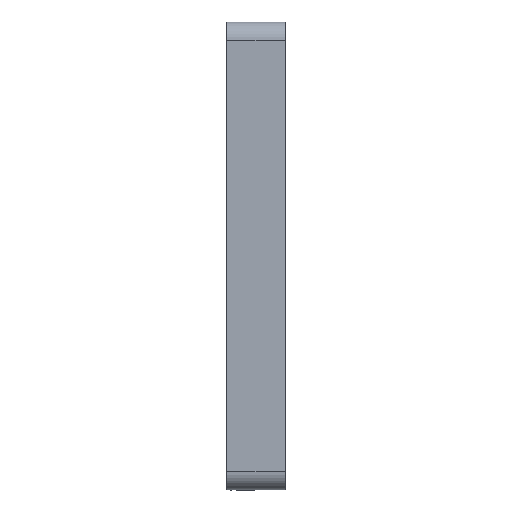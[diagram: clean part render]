
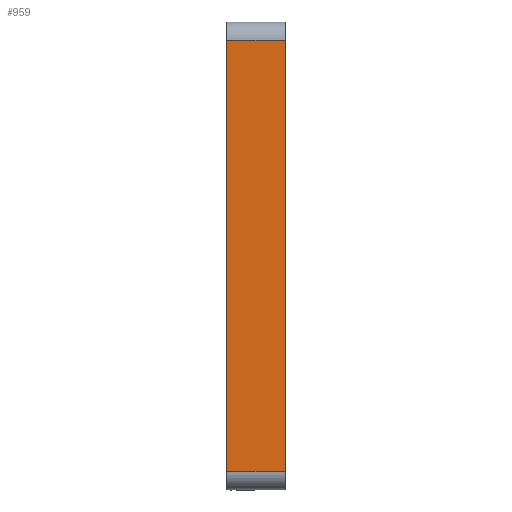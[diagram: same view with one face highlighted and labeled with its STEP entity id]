
A CAD part, left-side view. The second image highlights one B-rep face of the part: STEP entity #959.
In plain terms, the highlighted planar face has unit normal (-1, 0, 0).
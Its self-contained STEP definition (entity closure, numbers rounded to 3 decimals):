
#18 = DIRECTION ( 'NONE',  ( 0., -1., 0. ) ) ;
#80 = VERTEX_POINT ( 'NONE', #545 ) ;
#176 = ORIENTED_EDGE ( 'NONE', *, *, #364, .T. ) ;
#242 = CARTESIAN_POINT ( 'NONE',  ( -19.05, 4.763, -36.6 ) ) ;
#303 = CARTESIAN_POINT ( 'NONE',  ( -19.05, 0., -36.6 ) ) ;
#345 = PLANE ( 'NONE',  #1547 ) ;
#364 = EDGE_CURVE ( 'NONE', #2073, #2199, #1805, .T. ) ;
#531 = ORIENTED_EDGE ( 'NONE', *, *, #1318, .F. ) ;
#545 = CARTESIAN_POINT ( 'NONE',  ( -19.05, 0., -36.6 ) ) ;
#636 = CARTESIAN_POINT ( 'NONE',  ( -19.05, 4.763, 0. ) ) ;
#656 = CARTESIAN_POINT ( 'NONE',  ( -19.05, 0., -1.5 ) ) ;
#753 = CARTESIAN_POINT ( 'NONE',  ( -19.05, 0., -38.1 ) ) ;
#761 = CARTESIAN_POINT ( 'NONE',  ( -19.05, 4.763, -1.5 ) ) ;
#959 = ADVANCED_FACE ( 'NONE', ( #1097 ), #345, .T. ) ;
#968 = DIRECTION ( 'NONE',  ( 0., 0., -1. ) ) ;
#1015 = DIRECTION ( 'NONE',  ( 0., 1., 0. ) ) ;
#1016 = CARTESIAN_POINT ( 'NONE',  ( -19.05, 4.763, -1.5 ) ) ;
#1097 = FACE_OUTER_BOUND ( 'NONE', #1241, .T. ) ;
#1212 = VECTOR ( 'NONE', #18, 1000. ) ;
#1220 = CARTESIAN_POINT ( 'NONE',  ( -19.05, 0., 0. ) ) ;
#1241 = EDGE_LOOP ( 'NONE', ( #531, #176, #1498, #1987 ) ) ;
#1306 = VECTOR ( 'NONE', #968, 1000. ) ;
#1318 = EDGE_CURVE ( 'NONE', #2073, #80, #1369, .T. ) ;
#1369 = LINE ( 'NONE', #753, #1306 ) ;
#1427 = DIRECTION ( 'NONE',  ( 0., 0., 1. ) ) ;
#1470 = VECTOR ( 'NONE', #1427, 1000. ) ;
#1498 = ORIENTED_EDGE ( 'NONE', *, *, #2052, .F. ) ;
#1547 = AXIS2_PLACEMENT_3D ( 'NONE', #1220, #1940, #1947 ) ;
#1616 = LINE ( 'NONE', #636, #1470 ) ;
#1651 = VECTOR ( 'NONE', #1015, 1000. ) ;
#1805 = LINE ( 'NONE', #1016, #1651 ) ;
#1910 = VERTEX_POINT ( 'NONE', #242 ) ;
#1940 = DIRECTION ( 'NONE',  ( -1., 0., 0. ) ) ;
#1947 = DIRECTION ( 'NONE',  ( 0., 0., 1. ) ) ;
#1987 = ORIENTED_EDGE ( 'NONE', *, *, #2420, .T. ) ;
#2052 = EDGE_CURVE ( 'NONE', #1910, #2199, #1616, .T. ) ;
#2073 = VERTEX_POINT ( 'NONE', #656 ) ;
#2199 = VERTEX_POINT ( 'NONE', #761 ) ;
#2398 = LINE ( 'NONE', #303, #1212 ) ;
#2420 = EDGE_CURVE ( 'NONE', #1910, #80, #2398, .T. ) ;
